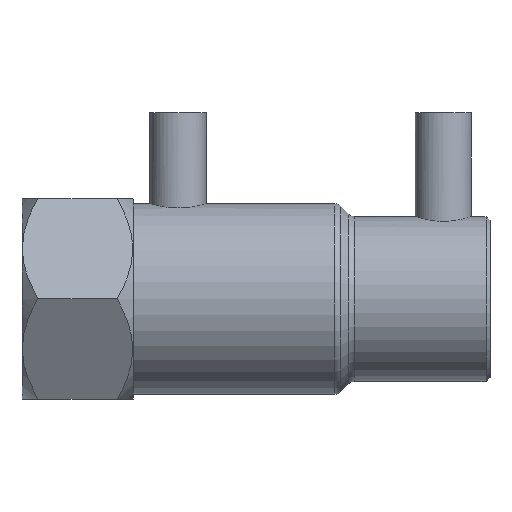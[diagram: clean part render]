
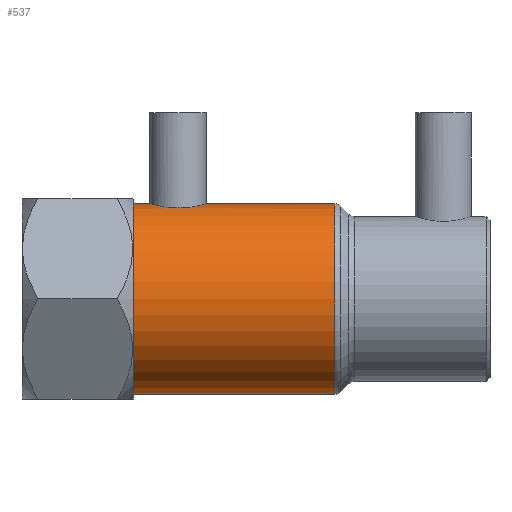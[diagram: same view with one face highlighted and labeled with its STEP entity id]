
A CAD part, top view. The second image highlights one B-rep face of the part: STEP entity #537.
In plain terms, the highlighted cylindrical face has radius 24 mm (diameter 48 mm), a full revolution.
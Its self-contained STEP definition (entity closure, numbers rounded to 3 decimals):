
#48=FACE_BOUND('',#107,.T.);
#57=B_SPLINE_CURVE_WITH_KNOTS('',3,(#919,#920,#921,#922,#923,#924,#925,
#926,#927,#928,#929,#930,#931,#932,#933,#934,#935,#936,#937,#938,#939,#940,
#941,#942,#943,#944),.UNSPECIFIED.,.F.,.F.,(4,2,2,2,2,2,2,2,2,2,2,2,4),
(0.,0.268,0.537,0.805,1.074,
1.342,1.61,1.879,2.147,2.416,
2.684,2.953,3.221),.UNSPECIFIED.);
#58=B_SPLINE_CURVE_WITH_KNOTS('',3,(#945,#946,#947,#948,#949,#950,#951,
#952,#953,#954),.UNSPECIFIED.,.F.,.F.,(4,2,2,2,4),(3.221,3.49,
3.758,4.026,4.295),.UNSPECIFIED.);
#60=CYLINDRICAL_SURFACE('',#606,24.);
#74=FACE_OUTER_BOUND('',#106,.T.);
#106=EDGE_LOOP('',(#404,#405,#406,#407,#408,#409,#410));
#107=EDGE_LOOP('',(#411,#412));
#140=LINE('',#913,#159);
#159=VECTOR('',#713,24.);
#191=CIRCLE('',#603,24.);
#192=CIRCLE('',#604,24.);
#193=CIRCLE('',#605,24.);
#194=CIRCLE('',#607,24.);
#195=CIRCLE('',#608,24.);
#236=VERTEX_POINT('',#904);
#237=VERTEX_POINT('',#906);
#238=VERTEX_POINT('',#908);
#239=VERTEX_POINT('',#912);
#240=VERTEX_POINT('',#914);
#241=VERTEX_POINT('',#917);
#242=VERTEX_POINT('',#918);
#302=EDGE_CURVE('',#236,#237,#191,.T.);
#303=EDGE_CURVE('',#237,#238,#192,.T.);
#304=EDGE_CURVE('',#238,#236,#193,.T.);
#305=EDGE_CURVE('',#237,#239,#140,.T.);
#306=EDGE_CURVE('',#239,#240,#194,.T.);
#307=EDGE_CURVE('',#240,#239,#195,.T.);
#308=EDGE_CURVE('',#241,#242,#57,.T.);
#309=EDGE_CURVE('',#242,#241,#58,.T.);
#404=ORIENTED_EDGE('',*,*,#304,.F.);
#405=ORIENTED_EDGE('',*,*,#303,.F.);
#406=ORIENTED_EDGE('',*,*,#305,.T.);
#407=ORIENTED_EDGE('',*,*,#306,.T.);
#408=ORIENTED_EDGE('',*,*,#307,.T.);
#409=ORIENTED_EDGE('',*,*,#305,.F.);
#410=ORIENTED_EDGE('',*,*,#302,.F.);
#411=ORIENTED_EDGE('',*,*,#308,.T.);
#412=ORIENTED_EDGE('',*,*,#309,.T.);
#537=ADVANCED_FACE('',(#74,#48),#60,.T.);
#603=AXIS2_PLACEMENT_3D('',#907,#705,#706);
#604=AXIS2_PLACEMENT_3D('',#909,#707,#708);
#605=AXIS2_PLACEMENT_3D('',#910,#709,#710);
#606=AXIS2_PLACEMENT_3D('',#911,#711,#712);
#607=AXIS2_PLACEMENT_3D('',#915,#714,#715);
#608=AXIS2_PLACEMENT_3D('',#916,#716,#717);
#705=DIRECTION('center_axis',(1.,0.,0.));
#706=DIRECTION('ref_axis',(0.,-1.,0.));
#707=DIRECTION('center_axis',(1.,0.,0.));
#708=DIRECTION('ref_axis',(0.,-1.,0.));
#709=DIRECTION('center_axis',(1.,0.,0.));
#710=DIRECTION('ref_axis',(0.,-1.,0.));
#711=DIRECTION('center_axis',(1.,0.,0.));
#712=DIRECTION('ref_axis',(0.,1.,0.));
#713=DIRECTION('',(-1.,0.,0.));
#714=DIRECTION('center_axis',(1.,0.,0.));
#715=DIRECTION('ref_axis',(0.,0.,-1.));
#716=DIRECTION('center_axis',(1.,0.,0.));
#717=DIRECTION('ref_axis',(0.,0.,-1.));
#904=CARTESIAN_POINT('',(78.872,0.,24.));
#906=CARTESIAN_POINT('',(78.872,-24.,0.));
#907=CARTESIAN_POINT('Origin',(78.872,0.,0.));
#908=CARTESIAN_POINT('',(78.872,24.,0.));
#909=CARTESIAN_POINT('Origin',(78.872,0.,0.));
#910=CARTESIAN_POINT('Origin',(78.872,0.,0.));
#911=CARTESIAN_POINT('Origin',(53.85,0.,0.));
#912=CARTESIAN_POINT('',(28.,-24.,0.));
#913=CARTESIAN_POINT('',(53.85,-24.,0.));
#914=CARTESIAN_POINT('',(28.,24.,0.));
#915=CARTESIAN_POINT('Origin',(28.,0.,0.));
#916=CARTESIAN_POINT('Origin',(28.,0.,0.));
#917=CARTESIAN_POINT('',(39.333,22.932,-7.08));
#918=CARTESIAN_POINT('',(32.253,24.,0.));
#919=CARTESIAN_POINT('Ctrl Pts',(39.333,22.932,-7.08));
#920=CARTESIAN_POINT('Ctrl Pts',(40.228,22.932,-7.08));
#921=CARTESIAN_POINT('Ctrl Pts',(41.179,22.99,-6.9));
#922=CARTESIAN_POINT('Ctrl Pts',(42.921,23.195,-6.176));
#923=CARTESIAN_POINT('Ctrl Pts',(43.714,23.339,-5.632));
#924=CARTESIAN_POINT('Ctrl Pts',(44.965,23.605,-4.381));
#925=CARTESIAN_POINT('Ctrl Pts',(45.509,23.746,-3.588));
#926=CARTESIAN_POINT('Ctrl Pts',(46.233,23.945,-1.845));
#927=CARTESIAN_POINT('Ctrl Pts',(46.413,24.,-0.895));
#928=CARTESIAN_POINT('Ctrl Pts',(46.413,24.,0.895));
#929=CARTESIAN_POINT('Ctrl Pts',(46.233,23.945,1.845));
#930=CARTESIAN_POINT('Ctrl Pts',(45.509,23.746,3.588));
#931=CARTESIAN_POINT('Ctrl Pts',(44.965,23.605,4.381));
#932=CARTESIAN_POINT('Ctrl Pts',(43.714,23.339,5.632));
#933=CARTESIAN_POINT('Ctrl Pts',(42.921,23.195,6.176));
#934=CARTESIAN_POINT('Ctrl Pts',(41.179,22.99,6.9));
#935=CARTESIAN_POINT('Ctrl Pts',(40.228,22.932,7.08));
#936=CARTESIAN_POINT('Ctrl Pts',(38.438,22.932,7.08));
#937=CARTESIAN_POINT('Ctrl Pts',(37.488,22.99,6.9));
#938=CARTESIAN_POINT('Ctrl Pts',(35.745,23.195,6.176));
#939=CARTESIAN_POINT('Ctrl Pts',(34.953,23.339,5.632));
#940=CARTESIAN_POINT('Ctrl Pts',(33.701,23.605,4.381));
#941=CARTESIAN_POINT('Ctrl Pts',(33.157,23.746,3.588));
#942=CARTESIAN_POINT('Ctrl Pts',(32.433,23.945,1.845));
#943=CARTESIAN_POINT('Ctrl Pts',(32.253,24.,0.895));
#944=CARTESIAN_POINT('Ctrl Pts',(32.253,24.,0.));
#945=CARTESIAN_POINT('Ctrl Pts',(32.253,24.,0.));
#946=CARTESIAN_POINT('Ctrl Pts',(32.253,24.,-0.895));
#947=CARTESIAN_POINT('Ctrl Pts',(32.433,23.945,-1.845));
#948=CARTESIAN_POINT('Ctrl Pts',(33.157,23.746,-3.588));
#949=CARTESIAN_POINT('Ctrl Pts',(33.701,23.605,-4.381));
#950=CARTESIAN_POINT('Ctrl Pts',(34.953,23.339,-5.632));
#951=CARTESIAN_POINT('Ctrl Pts',(35.745,23.195,-6.176));
#952=CARTESIAN_POINT('Ctrl Pts',(37.488,22.99,-6.9));
#953=CARTESIAN_POINT('Ctrl Pts',(38.438,22.932,-7.08));
#954=CARTESIAN_POINT('Ctrl Pts',(39.333,22.932,-7.08));
